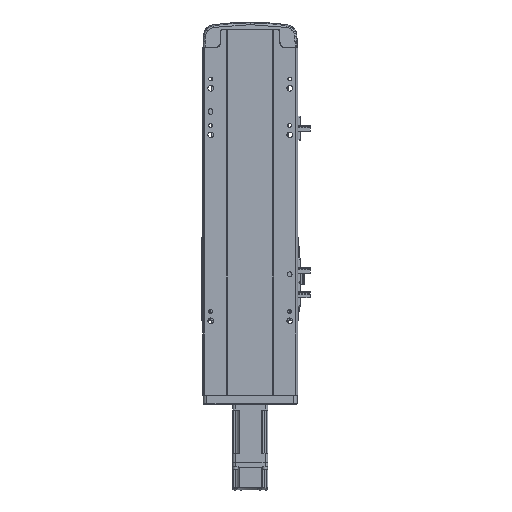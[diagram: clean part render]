
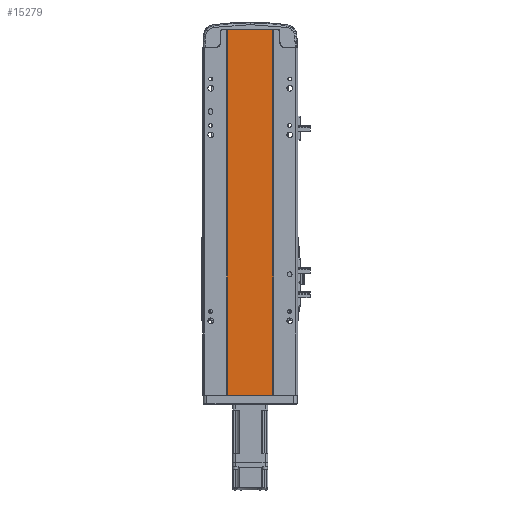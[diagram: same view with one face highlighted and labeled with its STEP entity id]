
A CAD part, front view. The second image highlights one B-rep face of the part: STEP entity #15279.
In plain terms, the highlighted planar face has unit normal (0, -1, 0).
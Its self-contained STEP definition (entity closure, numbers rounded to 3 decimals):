
#288 = VECTOR ( 'NONE', #12575, 1000. ) ;
#3384 = CARTESIAN_POINT ( 'NONE',  ( -24.5, 2., 393. ) ) ;
#6968 = DIRECTION ( 'NONE',  ( 0., 0., 1. ) ) ;
#7777 = CARTESIAN_POINT ( 'NONE',  ( -24.5, 2., 0. ) ) ;
#9179 = VECTOR ( 'NONE', #16548, 1000. ) ;
#9782 = ORIENTED_EDGE ( 'NONE', *, *, #41683, .T. ) ;
#11169 = LINE ( 'NONE', #45884, #33994 ) ;
#12575 = DIRECTION ( 'NONE',  ( 0., 0., -1. ) ) ;
#13197 = VECTOR ( 'NONE', #52301, 1000. ) ;
#15279 = ADVANCED_FACE ( 'NONE', ( #28212 ), #20139, .F. ) ;
#15829 = VERTEX_POINT ( 'NONE', #3384 ) ;
#16490 = CARTESIAN_POINT ( 'NONE',  ( 24.5, 2., 393. ) ) ;
#16548 = DIRECTION ( 'NONE',  ( 1., 0., 0. ) ) ;
#17550 = CARTESIAN_POINT ( 'NONE',  ( 24.5, 2., 0. ) ) ;
#19606 = DIRECTION ( 'NONE',  ( 1., 0., 0. ) ) ;
#20139 = PLANE ( 'NONE',  #40193 ) ;
#20522 = DIRECTION ( 'NONE',  ( 0., 1., 0. ) ) ;
#23599 = ORIENTED_EDGE ( 'NONE', *, *, #37432, .F. ) ;
#28212 = FACE_OUTER_BOUND ( 'NONE', #31316, .T. ) ;
#29697 = EDGE_CURVE ( 'NONE', #41320, #47565, #40274, .T. ) ;
#30301 = VERTEX_POINT ( 'NONE', #46961 ) ;
#31316 = EDGE_LOOP ( 'NONE', ( #46362, #23599, #56924, #9782 ) ) ;
#33994 = VECTOR ( 'NONE', #19606, 1000. ) ;
#34568 = CARTESIAN_POINT ( 'NONE',  ( -24.5, 2., 393. ) ) ;
#37432 = EDGE_CURVE ( 'NONE', #30301, #47565, #47047, .T. ) ;
#40193 = AXIS2_PLACEMENT_3D ( 'NONE', #50712, #20522, #6968 ) ;
#40274 = LINE ( 'NONE', #42237, #9179 ) ;
#41320 = VERTEX_POINT ( 'NONE', #7777 ) ;
#41683 = EDGE_CURVE ( 'NONE', #15829, #41320, #49502, .T. ) ;
#42237 = CARTESIAN_POINT ( 'NONE',  ( 0., 2., 0. ) ) ;
#45884 = CARTESIAN_POINT ( 'NONE',  ( -24.5, 2., 393. ) ) ;
#46362 = ORIENTED_EDGE ( 'NONE', *, *, #29697, .T. ) ;
#46961 = CARTESIAN_POINT ( 'NONE',  ( 24.5, 2., 393. ) ) ;
#47047 = LINE ( 'NONE', #16490, #13197 ) ;
#47565 = VERTEX_POINT ( 'NONE', #17550 ) ;
#49298 = EDGE_CURVE ( 'NONE', #15829, #30301, #11169, .T. ) ;
#49502 = LINE ( 'NONE', #34568, #288 ) ;
#50712 = CARTESIAN_POINT ( 'NONE',  ( 0., 2., 393. ) ) ;
#52301 = DIRECTION ( 'NONE',  ( 0., 0., -1. ) ) ;
#56924 = ORIENTED_EDGE ( 'NONE', *, *, #49298, .F. ) ;
